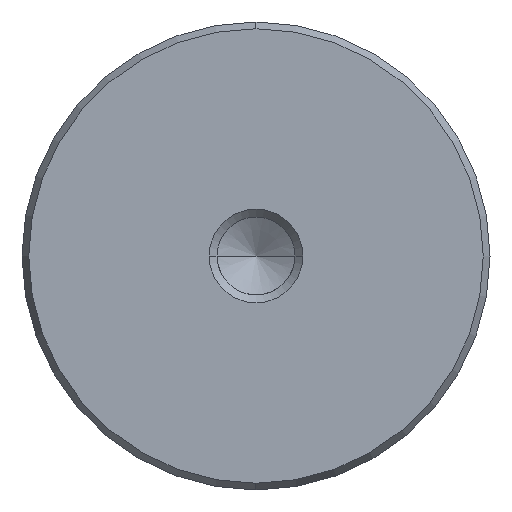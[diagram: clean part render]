
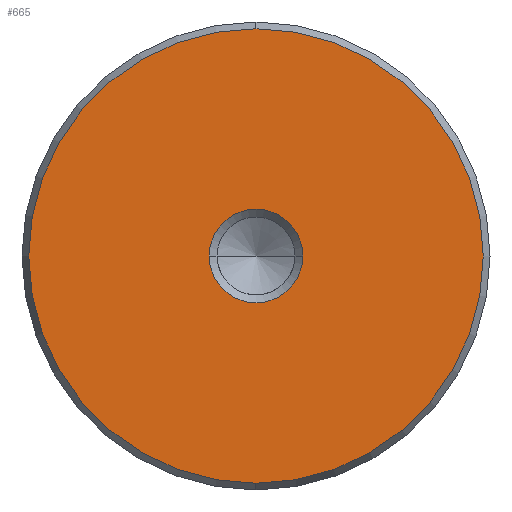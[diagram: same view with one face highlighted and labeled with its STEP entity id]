
A CAD part, left-side view. The second image highlights one B-rep face of the part: STEP entity #665.
In plain terms, the highlighted planar face has unit normal (-1, 0, 0).
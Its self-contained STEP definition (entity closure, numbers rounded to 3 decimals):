
#579=CARTESIAN_POINT('Vertex',(0.,0.,-19.423)) ;
#582=CARTESIAN_POINT('Axis2P3D Location',(0.,0.,0.)) ;
#586=CARTESIAN_POINT('Vertex',(0.,19.423,0.)) ;
#589=CARTESIAN_POINT('Axis2P3D Location',(0.,0.,0.)) ;
#593=CARTESIAN_POINT('Vertex',(0.,0.,19.423)) ;
#615=CARTESIAN_POINT('Axis2P3D Location',(0.,0.,0.)) ;
#619=CARTESIAN_POINT('Vertex',(0.,-19.423,0.)) ;
#622=CARTESIAN_POINT('Axis2P3D Location',(0.,0.,0.)) ;
#636=CARTESIAN_POINT('Axis2P3D Location',(0.,0.,0.)) ;
#647=CARTESIAN_POINT('Axis2P3D Location',(0.,0.,0.)) ;
#651=CARTESIAN_POINT('Vertex',(0.,4.,0.)) ;
#653=CARTESIAN_POINT('Vertex',(0.,-4.,0.)) ;
#656=CARTESIAN_POINT('Axis2P3D Location',(0.,0.,0.)) ;
#583=DIRECTION('Axis2P3D Direction',(1.,0.,-0.)) ;
#590=DIRECTION('Axis2P3D Direction',(1.,0.,-0.)) ;
#616=DIRECTION('Axis2P3D Direction',(1.,0.,-0.)) ;
#623=DIRECTION('Axis2P3D Direction',(1.,0.,-0.)) ;
#637=DIRECTION('Axis2P3D Direction',(1.,0.,-0.)) ;
#638=DIRECTION('Axis2P3D XDirection',(-0.,0.,-1.)) ;
#648=DIRECTION('Axis2P3D Direction',(1.,0.,-0.)) ;
#657=DIRECTION('Axis2P3D Direction',(1.,0.,-0.)) ;
#584=AXIS2_PLACEMENT_3D('Circle Axis2P3D',#582,#583,$) ;
#591=AXIS2_PLACEMENT_3D('Circle Axis2P3D',#589,#590,$) ;
#617=AXIS2_PLACEMENT_3D('Circle Axis2P3D',#615,#616,$) ;
#624=AXIS2_PLACEMENT_3D('Circle Axis2P3D',#622,#623,$) ;
#639=AXIS2_PLACEMENT_3D('Plane Axis2P3D',#636,#637,#638) ;
#649=AXIS2_PLACEMENT_3D('Circle Axis2P3D',#647,#648,$) ;
#658=AXIS2_PLACEMENT_3D('Circle Axis2P3D',#656,#657,$) ;
#642=ORIENTED_EDGE('',*,*,#588,.F.) ;
#643=ORIENTED_EDGE('',*,*,#626,.F.) ;
#644=ORIENTED_EDGE('',*,*,#621,.F.) ;
#645=ORIENTED_EDGE('',*,*,#595,.F.) ;
#662=ORIENTED_EDGE('',*,*,#655,.T.) ;
#663=ORIENTED_EDGE('',*,*,#660,.T.) ;
#664=FACE_BOUND('',#661,.T.) ;
#665=ADVANCED_FACE('720-40x315',(#646,#664),#640,.F.) ;
#585=CIRCLE('generated circle',#584,19.423) ;
#592=CIRCLE('generated circle',#591,19.423) ;
#618=CIRCLE('generated circle',#617,19.423) ;
#625=CIRCLE('generated circle',#624,19.423) ;
#650=CIRCLE('generated circle',#649,4.) ;
#659=CIRCLE('generated circle',#658,4.) ;
#588=EDGE_CURVE('',#580,#587,#585,.T.) ;
#595=EDGE_CURVE('',#587,#594,#592,.T.) ;
#621=EDGE_CURVE('',#594,#620,#618,.T.) ;
#626=EDGE_CURVE('',#620,#580,#625,.T.) ;
#655=EDGE_CURVE('',#652,#654,#650,.T.) ;
#660=EDGE_CURVE('',#654,#652,#659,.T.) ;
#641=EDGE_LOOP('',(#642,#643,#644,#645)) ;
#661=EDGE_LOOP('',(#662,#663)) ;
#646=FACE_OUTER_BOUND('',#641,.T.) ;
#640=PLANE('Plane',#639) ;
#580=VERTEX_POINT('',#579) ;
#587=VERTEX_POINT('',#586) ;
#594=VERTEX_POINT('',#593) ;
#620=VERTEX_POINT('',#619) ;
#652=VERTEX_POINT('',#651) ;
#654=VERTEX_POINT('',#653) ;
